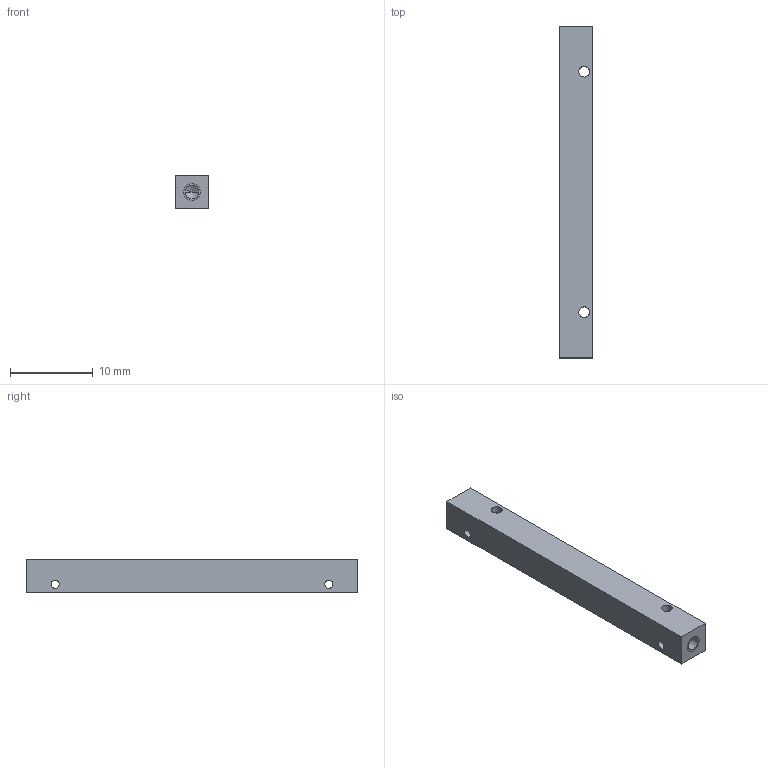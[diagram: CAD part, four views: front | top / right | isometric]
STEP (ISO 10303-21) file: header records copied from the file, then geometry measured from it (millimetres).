
FILE_DESCRIPTION((''),'2;1');
FILE_NAME('CASE-INTERNAL-CONNECTOR','2023-06-07T15:01:50',('lamadaemon'),(''),'CREO PARAMETRIC BY PTC INC, 2022073','CREO PARAMETRIC BY PTC INC, 2022073','');
FILE_SCHEMA(('CONFIG_CONTROL_DESIGN'));
Length unit declared in the file: millimetre
Products named in the file (1): CASE-INTERNAL-CONNECTOR
Bounding box: 4 x 40 x 4 mm (x, y, z)
Volume: 610.1 mm3; surface area: 847.1 mm2
Topology: 1 solids, 7 shells, 44 faces, 112 edges, 74 vertices
Faces by surface type: cylinder 24, plane 12, cone 8
Entity records: 1389 total; most frequent: DIRECTION 262, CARTESIAN_POINT 227, ORIENTED_EDGE 192, AXIS2_PLACEMENT_3D 109, EDGE_CURVE 108, VERTEX_POINT 74, CIRCLE 64, EDGE_LOOP 60
